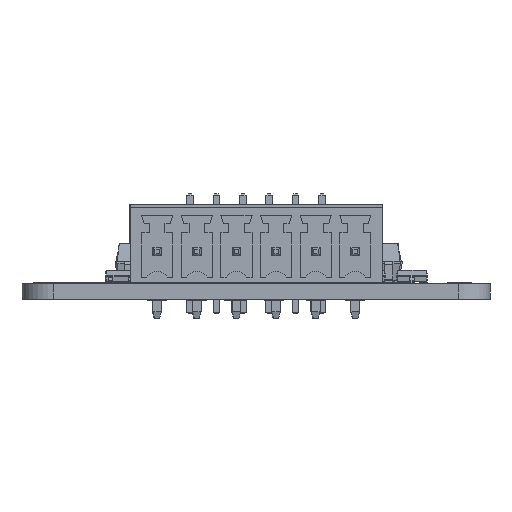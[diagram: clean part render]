
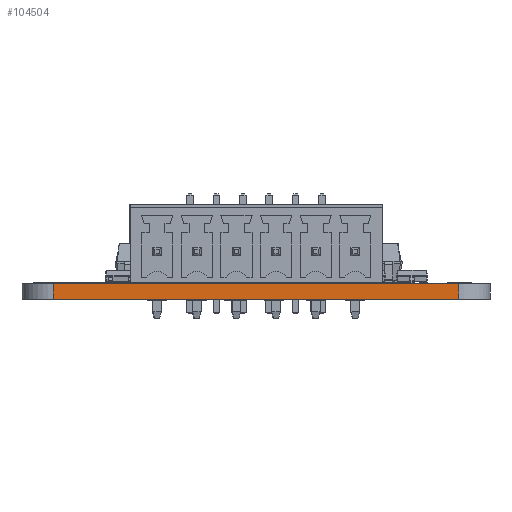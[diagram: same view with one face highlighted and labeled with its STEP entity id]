
A CAD part, left-side view. The second image highlights one B-rep face of the part: STEP entity #104504.
In plain terms, the highlighted planar face has unit normal (-1, 0, 0).
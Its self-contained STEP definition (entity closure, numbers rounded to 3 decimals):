
#103757 = VERTEX_POINT('',#103758);
#103758 = CARTESIAN_POINT('',(113.501,-85.504,0.));
#103765 = EDGE_CURVE('',#103766,#103757,#103768,.T.);
#103766 = VERTEX_POINT('',#103767);
#103767 = CARTESIAN_POINT('',(113.501,-124.504,0.));
#103768 = LINE('',#103769,#103770);
#103769 = CARTESIAN_POINT('',(113.501,-124.504,0.));
#103770 = VECTOR('',#103771,1.);
#103771 = DIRECTION('',(0.,1.,0.));
#104117 = VERTEX_POINT('',#104118);
#104118 = CARTESIAN_POINT('',(113.501,-85.504,1.51));
#104125 = EDGE_CURVE('',#104126,#104117,#104128,.T.);
#104126 = VERTEX_POINT('',#104127);
#104127 = CARTESIAN_POINT('',(113.501,-124.504,1.51));
#104128 = LINE('',#104129,#104130);
#104129 = CARTESIAN_POINT('',(113.501,-124.504,1.51));
#104130 = VECTOR('',#104131,1.);
#104131 = DIRECTION('',(0.,1.,0.));
#104474 = EDGE_CURVE('',#103757,#104117,#104475,.T.);
#104475 = LINE('',#104476,#104477);
#104476 = CARTESIAN_POINT('',(113.501,-85.504,0.));
#104477 = VECTOR('',#104478,1.);
#104478 = DIRECTION('',(0.,0.,1.));
#104504 = ADVANCED_FACE('',(#104505),#104516,.T.);
#104505 = FACE_BOUND('',#104506,.T.);
#104506 = EDGE_LOOP('',(#104507,#104513,#104514,#104515));
#104507 = ORIENTED_EDGE('',*,*,#104508,.T.);
#104508 = EDGE_CURVE('',#103766,#104126,#104509,.T.);
#104509 = LINE('',#104510,#104511);
#104510 = CARTESIAN_POINT('',(113.501,-124.504,0.));
#104511 = VECTOR('',#104512,1.);
#104512 = DIRECTION('',(0.,0.,1.));
#104513 = ORIENTED_EDGE('',*,*,#104125,.T.);
#104514 = ORIENTED_EDGE('',*,*,#104474,.F.);
#104515 = ORIENTED_EDGE('',*,*,#103765,.F.);
#104516 = PLANE('',#104517);
#104517 = AXIS2_PLACEMENT_3D('',#104518,#104519,#104520);
#104518 = CARTESIAN_POINT('',(113.501,-124.504,0.));
#104519 = DIRECTION('',(-1.,0.,0.));
#104520 = DIRECTION('',(0.,1.,0.));
